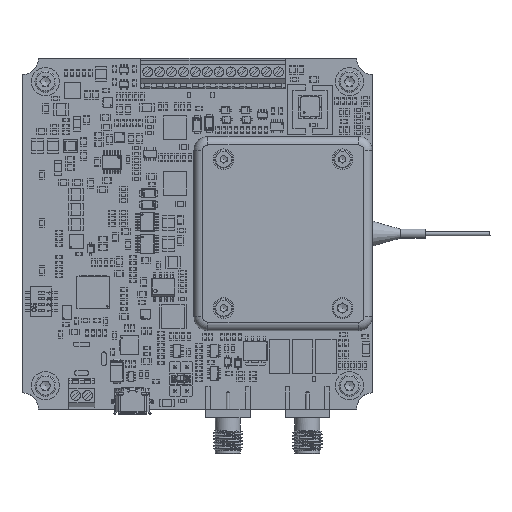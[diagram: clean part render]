
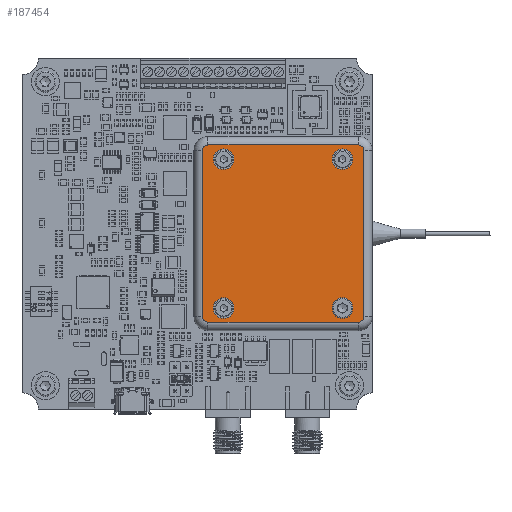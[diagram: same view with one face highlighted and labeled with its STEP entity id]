
A CAD part, top view. The second image highlights one B-rep face of the part: STEP entity #187454.
In plain terms, the highlighted planar face has unit normal (0, 0, 1) as drawn and (0, 0, -1) by its records, which use the part's own axes.
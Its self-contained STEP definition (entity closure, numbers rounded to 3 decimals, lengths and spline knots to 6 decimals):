
#10456=CIRCLE('',#214224,0.0012);
#10457=CIRCLE('',#214225,0.0012);
#10458=CIRCLE('',#214226,0.0012);
#10459=CIRCLE('',#214227,0.0012);
#10460=CIRCLE('',#214228,0.0022);
#10461=CIRCLE('',#214229,0.0022);
#10462=CIRCLE('',#214230,0.0022);
#10463=CIRCLE('',#214231,0.0022);
#37327=ORIENTED_EDGE('',*,*,#75101,.T.);
#37328=ORIENTED_EDGE('',*,*,#75102,.T.);
#37329=ORIENTED_EDGE('',*,*,#75103,.T.);
#37330=ORIENTED_EDGE('',*,*,#75104,.T.);
#37331=ORIENTED_EDGE('',*,*,#75105,.T.);
#37332=ORIENTED_EDGE('',*,*,#75106,.T.);
#37333=ORIENTED_EDGE('',*,*,#75107,.T.);
#37334=ORIENTED_EDGE('',*,*,#75108,.T.);
#37335=ORIENTED_EDGE('',*,*,#75109,.T.);
#37336=ORIENTED_EDGE('',*,*,#75110,.T.);
#37337=ORIENTED_EDGE('',*,*,#75111,.T.);
#37338=ORIENTED_EDGE('',*,*,#75112,.T.);
#75101=EDGE_CURVE('',#96093,#96094,#115641,.F.);
#75102=EDGE_CURVE('',#96094,#96095,#10456,.F.);
#75103=EDGE_CURVE('',#96095,#96096,#115642,.T.);
#75104=EDGE_CURVE('',#96096,#96097,#10457,.F.);
#75105=EDGE_CURVE('',#96097,#96098,#115643,.T.);
#75106=EDGE_CURVE('',#96098,#96099,#10458,.F.);
#75107=EDGE_CURVE('',#96099,#96100,#115644,.F.);
#75108=EDGE_CURVE('',#96100,#96093,#10459,.F.);
#75109=EDGE_CURVE('',#96101,#96101,#10460,.T.);
#75110=EDGE_CURVE('',#96102,#96102,#10461,.T.);
#75111=EDGE_CURVE('',#96103,#96103,#10462,.T.);
#75112=EDGE_CURVE('',#96104,#96104,#10463,.T.);
#96093=VERTEX_POINT('',#301936);
#96094=VERTEX_POINT('',#301937);
#96095=VERTEX_POINT('',#301939);
#96096=VERTEX_POINT('',#301941);
#96097=VERTEX_POINT('',#301943);
#96098=VERTEX_POINT('',#301945);
#96099=VERTEX_POINT('',#301947);
#96100=VERTEX_POINT('',#301949);
#96101=VERTEX_POINT('',#301952);
#96102=VERTEX_POINT('',#301954);
#96103=VERTEX_POINT('',#301956);
#96104=VERTEX_POINT('',#301958);
#115641=LINE('',#301935,#137966);
#115642=LINE('',#301940,#137967);
#115643=LINE('',#301944,#137968);
#115644=LINE('',#301948,#137969);
#137966=VECTOR('',#248235,1.);
#137967=VECTOR('',#248238,1.);
#137968=VECTOR('',#248241,1.);
#137969=VECTOR('',#248244,1.);
#154994=EDGE_LOOP('',(#37327,#37328,#37329,#37330,#37331,#37332,#37333,
#37334));
#154995=EDGE_LOOP('',(#37335));
#154996=EDGE_LOOP('',(#37336));
#154997=EDGE_LOOP('',(#37337));
#154998=EDGE_LOOP('',(#37338));
#166552=FACE_BOUND('',#154994,.T.);
#166553=FACE_BOUND('',#154995,.T.);
#166554=FACE_BOUND('',#154996,.T.);
#166555=FACE_BOUND('',#154997,.T.);
#166556=FACE_BOUND('',#154998,.T.);
#177020=PLANE('',#214223);
#187454=ADVANCED_FACE('',(#166552,#166553,#166554,#166555,#166556),#177020,
 .F.);
#214223=AXIS2_PLACEMENT_3D('',#301934,#248233,#248234);
#214224=AXIS2_PLACEMENT_3D('',#301938,#248236,#248237);
#214225=AXIS2_PLACEMENT_3D('',#301942,#248239,#248240);
#214226=AXIS2_PLACEMENT_3D('',#301946,#248242,#248243);
#214227=AXIS2_PLACEMENT_3D('',#301950,#248245,#248246);
#214228=AXIS2_PLACEMENT_3D('',#301951,#248247,#248248);
#214229=AXIS2_PLACEMENT_3D('',#301953,#248249,#248250);
#214230=AXIS2_PLACEMENT_3D('',#301955,#248251,#248252);
#214231=AXIS2_PLACEMENT_3D('',#301957,#248253,#248254);
#248233=DIRECTION('',(0.,0.,1.));
#248234=DIRECTION('',(1.,0.,0.));
#248235=DIRECTION('',(0.,-1.,0.));
#248236=DIRECTION('',(0.,0.,1.));
#248237=DIRECTION('',(1.,0.,0.));
#248238=DIRECTION('',(1.,0.,0.));
#248239=DIRECTION('',(0.,0.,1.));
#248240=DIRECTION('',(1.,0.,0.));
#248241=DIRECTION('',(0.,-1.,0.));
#248242=DIRECTION('',(0.,0.,1.));
#248243=DIRECTION('',(1.,0.,0.));
#248244=DIRECTION('',(1.,0.,0.));
#248245=DIRECTION('',(0.,0.,1.));
#248246=DIRECTION('',(1.,0.,0.));
#248247=DIRECTION('',(0.,0.,1.));
#248248=DIRECTION('',(1.,0.,0.));
#248249=DIRECTION('',(0.,0.,1.));
#248250=DIRECTION('',(1.,0.,0.));
#248251=DIRECTION('',(0.,0.,1.));
#248252=DIRECTION('',(1.,0.,0.));
#248253=DIRECTION('',(0.,0.,1.));
#248254=DIRECTION('',(1.,0.,0.));
#301934=CARTESIAN_POINT('',(0.,0.,-0.01));
#301935=CARTESIAN_POINT('',(-0.01895,0.01605,-0.01));
#301936=CARTESIAN_POINT('',(-0.01895,-0.01605,-0.01));
#301937=CARTESIAN_POINT('',(-0.01895,0.01605,-0.01));
#301938=CARTESIAN_POINT('',(-0.01775,0.01605,-0.01));
#301939=CARTESIAN_POINT('',(-0.01775,0.01725,-0.01));
#301940=CARTESIAN_POINT('',(0.,0.01725,-0.01));
#301941=CARTESIAN_POINT('',(0.01775,0.01725,-0.01));
#301942=CARTESIAN_POINT('',(0.01775,0.01605,-0.01));
#301943=CARTESIAN_POINT('',(0.01895,0.01605,-0.01));
#301944=CARTESIAN_POINT('',(0.01895,0.,-0.01));
#301945=CARTESIAN_POINT('',(0.01895,-0.01605,-0.01));
#301946=CARTESIAN_POINT('',(0.01775,-0.01605,-0.01));
#301947=CARTESIAN_POINT('',(0.01775,-0.01725,-0.01));
#301948=CARTESIAN_POINT('',(-0.01775,-0.01725,-0.01));
#301949=CARTESIAN_POINT('',(-0.01775,-0.01725,-0.01));
#301950=CARTESIAN_POINT('',(-0.01775,-0.01605,-0.01));
#301951=CARTESIAN_POINT('',(0.01592,0.0127,-0.01));
#301952=CARTESIAN_POINT('',(0.01812,0.0127,-0.01));
#301953=CARTESIAN_POINT('',(0.01592,-0.0127,-0.01));
#301954=CARTESIAN_POINT('',(0.01812,-0.0127,-0.01));
#301955=CARTESIAN_POINT('',(-0.01592,-0.0127,-0.01));
#301956=CARTESIAN_POINT('',(-0.01372,-0.0127,-0.01));
#301957=CARTESIAN_POINT('',(-0.01592,0.0127,-0.01));
#301958=CARTESIAN_POINT('',(-0.01372,0.0127,-0.01));
